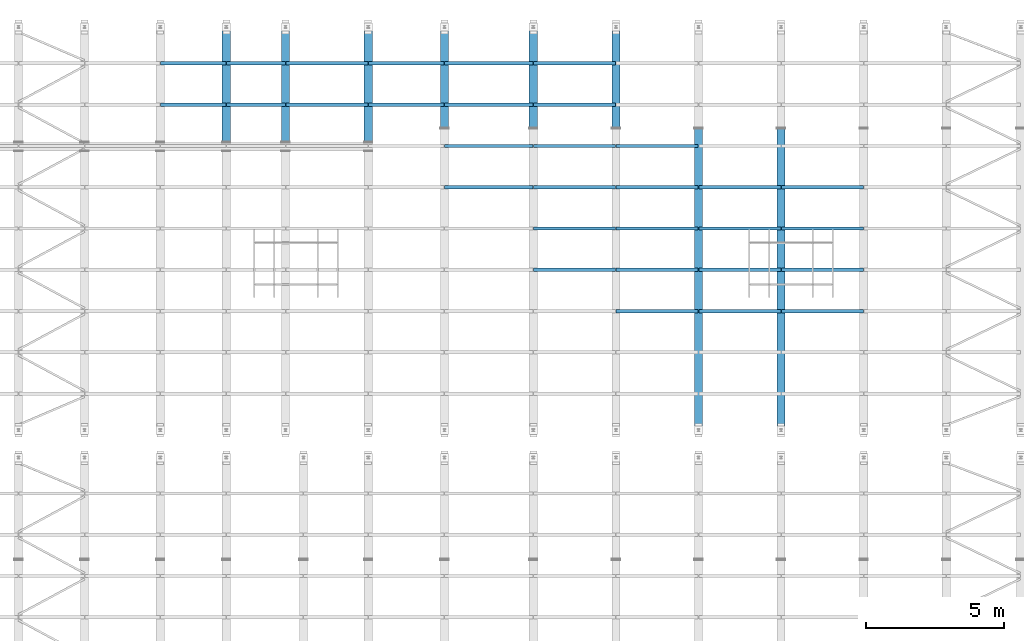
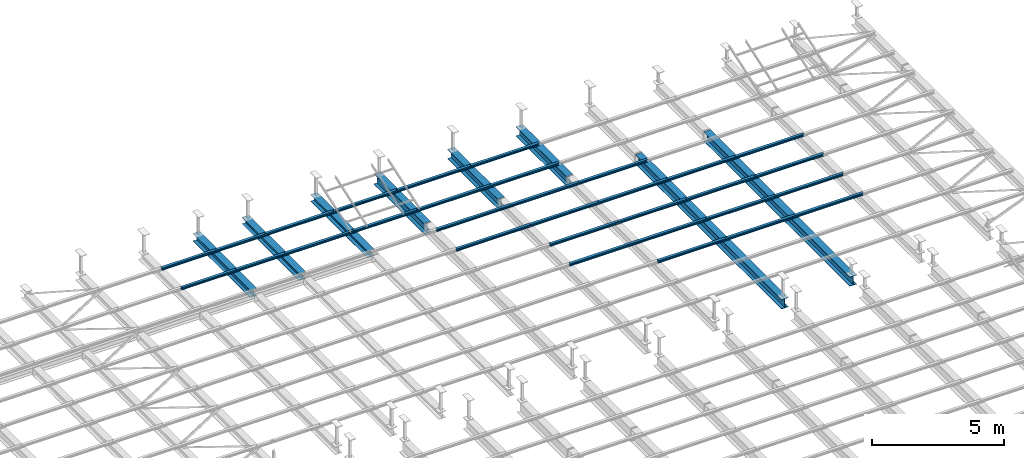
# One storey, part 85 of 139: 39 beams.
"""IFC2X3 building model written with IfcOpenShell, lengths in metres."""

import ifcopenshell
import ifcopenshell.guid

model = None  # the IFC model being written
_history = None  # IfcOwnerHistory: only IFC2X3 demands one
_inside = {}  # id of a spatial element -> (the spatial element, [elements in it])
_under = {}  # id of a project, library or spatial element -> (it, [spatial elements below it])
_declared = {}  # id of a project -> (the project, [libraries it declares])
_typed = {}  # id of a type object -> (the type object, [elements of that type])
_made_of = {}  # id of a material, layer set ... -> (it, [elements and type objects made of it])


def new_model(schema):
    """Start an empty IFC model of exactly this schema.

    Asked for "IFC4X3", IfcOpenShell would pick the latest addendum, in which some entities
    have other attributes; the version numbers below select the first issue.
    IFC2X3 requires an IfcOwnerHistory on every rooted entity: one is made here for all.
    """
    global model, _history
    if schema == "IFC4X3":
        model = ifcopenshell.file(schema_version=(4, 3, 0, 0))
    else:
        model = ifcopenshell.file(schema=schema)
    _inside.clear()
    _under.clear()
    _declared.clear()
    _typed.clear()
    _made_of.clear()
    _history = None
    if model.schema == "IFC2X3":
        org = make("IfcOrganization", Name="unknown")
        user = make(
            "IfcPersonAndOrganization",
            ThePerson=make("IfcPerson", FamilyName="unknown"),
            TheOrganization=org,
        )
        app = make(
            "IfcApplication",
            ApplicationDeveloper=org,
            Version="unknown",
            ApplicationFullName="unknown",
            ApplicationIdentifier="unknown",
        )
        _history = make(
            "IfcOwnerHistory",
            OwningUser=user,
            OwningApplication=app,
            ChangeAction="ADDED",
            CreationDate=0,
        )
    return model


def make(cls, **values):
    """One entity of the class cls with the attributes given. An attribute that is None is left unset."""
    return model.create_entity(
        cls, **{name: value for name, value in values.items() if value is not None}
    )


def entity(cls, *values):
    """Any entity or typed value of the class cls, its attributes in the order of the schema. None: left unset."""
    e = model.create_entity(cls)
    for i, value in enumerate(values):
        if value is not None:
            e[i] = value
    return e


def rooted(cls, **values):
    """An entity with a GlobalId (a new one), such as an element, a storey or a relation."""
    return make(cls, GlobalId=ifcopenshell.guid.new(), OwnerHistory=_history, **values)


def si_unit(unit_type, name, prefix=None):
    """IfcSIUnit, for example si_unit("LENGTHUNIT", "METRE", prefix="MILLI")."""
    return make("IfcSIUnit", UnitType=unit_type, Prefix=prefix, Name=name)


def converted_unit(unit_type, name, factor, base, dimensions=None, offset=None):
    """IfcConversionBasedUnit, such as the inch: factor (a typed value) times the base unit."""
    return make(
        "IfcConversionBasedUnit"
        if offset is None
        else "IfcConversionBasedUnitWithOffset",
        ConversionOffset=offset,
        Dimensions=None
        if dimensions is None
        else entity("IfcDimensionalExponents", *dimensions),
        UnitType=unit_type,
        Name=name,
        ConversionFactor=make(
            "IfcMeasureWithUnit", ValueComponent=factor, UnitComponent=base
        ),
    )


def derived_unit(unit_type, elements):
    """IfcDerivedUnit: a product of units, each with its exponent."""
    return make(
        "IfcDerivedUnit",
        Elements=[
            make("IfcDerivedUnitElement", Unit=unit, Exponent=power)
            for unit, power in elements
        ],
        UnitType=unit_type,
    )


def assignment(units):
    """IfcUnitAssignment: the units of a project."""
    return None if units is None else make("IfcUnitAssignment", Units=units)


def point(xyz):
    """IfcCartesianPoint."""
    return None if xyz is None else make("IfcCartesianPoint", Coordinates=xyz)


def direction(xyz):
    """IfcDirection."""
    return None if xyz is None else make("IfcDirection", DirectionRatios=xyz)


def frame(location, z_axis=None, x_axis=None):
    """IfcAxis2Placement3D, a coordinate frame: its origin and axes. An axis left out is left unset."""
    return make(
        "IfcAxis2Placement3D",
        Location=point(location),
        Axis=direction(z_axis),
        RefDirection=direction(x_axis),
    )


def origin():
    """The frame at (0, 0, 0) with its axes left unset."""
    return frame((0.0, 0.0, 0.0))


def place(relative_to, where):
    """IfcLocalPlacement: puts the frame where relative to a parent placement (None: the world)."""
    return make(
        "IfcLocalPlacement", PlacementRelTo=relative_to, RelativePlacement=where
    )


def context(
    kind, dimensions, precision=None, world=None, true_north=None, identifier=None
):
    """IfcGeometricRepresentationContext, for example the 3D "Model" context."""
    return make(
        "IfcGeometricRepresentationContext",
        ContextIdentifier=identifier,
        ContextType=kind,
        CoordinateSpaceDimension=dimensions,
        Precision=precision,
        WorldCoordinateSystem=world,
        TrueNorth=true_north,
    )


def subcontext(parent, identifier, kind, view, scale=None):
    """IfcGeometricRepresentationSubContext, for example "Body" below "Model"."""
    return make(
        "IfcGeometricRepresentationSubContext",
        ContextIdentifier=identifier,
        ContextType=kind,
        ParentContext=parent,
        TargetScale=scale,
        TargetView=view,
    )


def project(units=None, contexts=None):
    """IfcProject with its units and contexts."""
    return rooted(
        "IfcProject",
        Name="project",
        RepresentationContexts=contexts,
        UnitsInContext=assignment(units),
    )


def spatial(cls, under=None, at=None, **own):
    """A site, building, storey or space (cls), placed at a placement, below another one or the project."""
    s = rooted(cls, ObjectPlacement=at, **own)
    if under is not None:
        _under.setdefault(under.id(), (under, []))[1].append(s)
    return s


def polyline(points):
    """IfcPolyline through the points."""
    return make("IfcPolyline", Points=[point(p) for p in points])


def outline(outer, holes=None, kind="AREA"):
    """IfcArbitraryClosedProfileDef: a profile drawn as a closed curve; with holes, ...WithVoids."""
    if holes is None:
        return make("IfcArbitraryClosedProfileDef", ProfileType=kind, OuterCurve=outer)
    return make(
        "IfcArbitraryProfileDefWithVoids",
        ProfileType=kind,
        OuterCurve=outer,
        InnerCurves=holes,
    )


def extrude(swept, where, along, depth):
    """IfcExtrudedAreaSolid: the profile swept, set in the frame where, extruded along a direction by depth."""
    return make(
        "IfcExtrudedAreaSolid",
        SweptArea=swept,
        Position=where,
        ExtrudedDirection=direction(along),
        Depth=depth,
    )


def shape(context_of_items, identifier, shape_type, items):
    """IfcShapeRepresentation: the items that make up one representation, for example the "Body"."""
    return make(
        "IfcShapeRepresentation",
        ContextOfItems=context_of_items,
        RepresentationIdentifier=identifier,
        RepresentationType=shape_type,
        Items=items,
    )


def material(Name=None, Category=None):
    """IfcMaterial."""
    return make("IfcMaterial", Name=Name, Category=Category)


def made_of(thing, what):
    """Note that an element or type object is made of a material, layer set ...; save() writes the relation."""
    if what is not None:
        _made_of.setdefault(what.id(), (what, []))[1].append(thing)
    return thing


def element(
    cls,
    number,
    at=None,
    inside=None,
    cuts=None,
    type_object=None,
    material=None,
    context=None,
    identifier="Body",
    shape_type=None,
    held_by="IfcProductDefinitionShape",
    body=None,
    shapes=None,
    **own,
):
    """One element of the class cls, such as IfcWall. Its Tag is "e" and its number.

    at: its placement. inside: the storey or other place that contains it. cuts: it is an
    opening in that element (IfcRelVoidsElement). A single representation is given by context,
    identifier, shape_type and body (its items); several are given by shapes. held_by: the class
    of the entity that holds the representations. save() writes the other relations.
    """
    e = rooted(cls, Tag="e%d" % number, ObjectPlacement=at, **own)
    if body is not None:
        shapes = [shape(context, identifier, shape_type, body)]
    if shapes is not None:
        e.Representation = make(held_by, Representations=shapes)
    if inside is not None:
        _inside.setdefault(inside.id(), (inside, []))[1].append(e)
    if cuts is not None:
        rooted(
            "IfcRelVoidsElement", RelatingBuildingElement=cuts, RelatedOpeningElement=e
        )
    if type_object is not None:
        _typed.setdefault(type_object.id(), (type_object, []))[1].append(e)
    return made_of(e, material)


def aggregate(whole, parts):
    """IfcRelAggregates: a whole, such as a stair, and the parts it consists of."""
    return rooted("IfcRelAggregates", RelatingObject=whole, RelatedObjects=parts)


def save(model, path):
    """Write the relations noted so far, then the file.

    IfcRelAggregates (storeys below a building ...), IfcRelContainedInSpatialStructure (elements
    in a storey), IfcRelDefinesByType, IfcRelAssociatesMaterial and IfcRelDeclares: one each for
    every whole, place, type object, material and project.
    """
    for whole, parts in _under.values():
        aggregate(whole, parts)
    for where, things in _inside.values():
        rooted(
            "IfcRelContainedInSpatialStructure",
            RelatedElements=things,
            RelatingStructure=where,
        )
    for kind, things in _typed.values():
        rooted("IfcRelDefinesByType", RelatedObjects=things, RelatingType=kind)
    for what, things in _made_of.values():
        rooted("IfcRelAssociatesMaterial", RelatedObjects=things, RelatingMaterial=what)
    for by, libraries in _declared.values():
        rooted("IfcRelDeclares", RelatingContext=by, RelatedDefinitions=libraries)
    model.write(path)


model = new_model("IFC2X3")

# Units and contexts
model_context = context("Model", 3, precision=1e-05, world=origin())
body_context = subcontext(model_context, "Body", "Model", "MODEL_VIEW")
ifc_project = project(units=[si_unit("LENGTHUNIT", "METRE"), si_unit("AREAUNIT", "SQUARE_METRE"), si_unit("VOLUMEUNIT", "CUBIC_METRE"), si_unit("MASSUNIT", "GRAM", prefix="KILO"), converted_unit("PLANEANGLEUNIT", "DEGREE", entity("IfcPlaneAngleMeasure", 0.0174532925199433), si_unit("PLANEANGLEUNIT", "RADIAN"), dimensions=[0, 0, 0, 0, 0, 0, 0]), derived_unit("THERMALTRANSMITTANCEUNIT", [(si_unit("POWERUNIT", "WATT"), 1), (si_unit("THERMODYNAMICTEMPERATUREUNIT", "KELVIN"), -1), (si_unit("LENGTHUNIT", "METRE"), -2)]), derived_unit("VOLUMETRICFLOWRATEUNIT", [(si_unit("LENGTHUNIT", "METRE"), 3), (converted_unit("TIMEUNIT", "hour", entity("IfcTimeMeasure", 3600.0), si_unit("TIMEUNIT", "SECOND"), dimensions=[0, 0, 1, 0, 0, 0, 0]), -1), (si_unit("LENGTHUNIT", "METRE"), -1)])], contexts=[model_context])

# Site, building, storey
site_placement = place(None, origin())
site = spatial("IfcSite", under=ifc_project, at=site_placement, Name="TWP_Speiseverteilzentrum SBW VZ II", CompositionType="ELEMENT")
building_placement = place(site_placement, origin())
building = spatial("IfcBuilding", under=site, at=building_placement, Name="Speiseverteilzentrum SBW VZ II", CompositionType="ELEMENT")
storey_placement = place(building_placement, frame((0.0, 0.0, 7.1307)))
storey = spatial("IfcBuildingStorey", under=building, at=storey_placement, Name="Wartung_FFB", CompositionType="ELEMENT", Elevation=7.1307)

# Beams
ifc_material_1 = material(Name="S235")
beam_1_placement = place(storey_placement, frame((91.9000000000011, 85.7000000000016, -0.365), z_axis=(0.0, 0.0, 1.0), x_axis=(-1.0, 0.0, 0.0)))
element("IfcBeam", 1, at=beam_1_placement, inside=storey, material=ifc_material_1, Name="Stahlträger", context=body_context, shape_type="SweptSolid", body=[
    extrude(outline(polyline([(-0.15, 0.175), (-0.15, 0.1575), (-0.00500000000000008, 0.1575), (-0.0050000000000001, -0.1575), (-0.15, -0.1575), (-0.15, -0.175), (0.15, -0.175), (0.15, -0.1575), (0.0049999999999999, -0.1575), (0.00499999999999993, 0.1575), (0.15, 0.1575), (0.15, 0.175), (-0.15, 0.175)])), frame((0.0, 0.0, 0.0), z_axis=(0.0, 1.0, 0.0), x_axis=(-1.0, 0.0, 0.0)), (0.0, 0.0, 1.0), 4.32558461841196),
])
ifc_material_2 = material(Name="S235")
beam_2_placement = place(storey_placement, frame((94.0500000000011, 81.3744153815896, -0.345), z_axis=(0.0, 0.0, 1.0), x_axis=(1.0, -2.44929359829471e-16, 0.0)))
element("IfcBeam", 2, at=beam_2_placement, inside=storey, material=ifc_material_2, Name="Stahlträger", context=body_context, shape_type="SweptSolid", body=[
    extrude(outline(polyline([(-0.15, 0.155), (-0.15, 0.1395), (-0.00449999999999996, 0.1395), (-0.00449999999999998, -0.1395), (-0.15, -0.1395), (-0.15, -0.155), (0.15, -0.155), (0.15, -0.1395), (0.00450000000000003, -0.1395), (0.00450000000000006, 0.1395), (0.15, 0.1395), (0.15, 0.155), (-0.15, 0.155)])), frame((0.0, 0.0, 0.0), z_axis=(0.0, 1.0, 0.0), x_axis=(-1.0, 0.0, 0.0)), (0.0, 0.0, 1.0), 4.32558461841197),
])
ifc_material_3 = material(Name="S235")
beam_3_placement = place(storey_placement, frame((97.0500000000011, 81.3744153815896, -0.345), z_axis=(0.0, 0.0, 1.0), x_axis=(1.0, -2.44929359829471e-16, 0.0)))
element("IfcBeam", 3, at=beam_3_placement, inside=storey, material=ifc_material_3, Name="Stahlträger", context=body_context, shape_type="SweptSolid", body=[
    extrude(outline(polyline([(-0.15, 0.155), (-0.15, 0.1395), (-0.00449999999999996, 0.1395), (-0.00449999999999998, -0.1395), (-0.15, -0.1395), (-0.15, -0.155), (0.15, -0.155), (0.15, -0.1395), (0.00450000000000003, -0.1395), (0.00450000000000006, 0.1395), (0.15, 0.1395), (0.15, 0.155), (-0.15, 0.155)])), frame((0.0, 0.0, 0.0), z_axis=(0.0, 1.0, 0.0), x_axis=(-1.0, 0.0, 0.0)), (0.0, 0.0, 1.0), 4.32558461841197),
])
ifc_material_4 = material(Name="S235")
beam_4_placement = place(storey_placement, frame((103.050000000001, 81.8930000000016, -0.41), z_axis=(0.0, 0.0, 1.0), x_axis=(1.0, -2.44929359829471e-16, 0.0)))
element("IfcBeam", 4, at=beam_4_placement, inside=storey, material=ifc_material_4, Name="Stahlträger", context=body_context, shape_type="SweptSolid", body=[
    extrude(outline(polyline([(-0.15, 0.22), (-0.15, 0.199), (-0.00574999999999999, 0.199), (-0.00575000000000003, -0.199), (-0.15, -0.199), (-0.15, -0.22), (0.15, -0.22), (0.15, -0.199), (0.00574999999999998, -0.199), (0.00575000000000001, 0.199), (0.15, 0.199), (0.15, 0.22), (-0.15, 0.22)])), frame((0.0, 0.0, 0.0), z_axis=(0.0, 1.0, 0.0), x_axis=(-1.0, 0.0, 0.0)), (0.0, 0.0, 1.0), 3.80699999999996),
])
ifc_material_5 = material(Name="S235")
beam_5_placement = place(storey_placement, frame((106.050000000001, 81.8930000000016, -0.41), z_axis=(0.0, 0.0, 1.0), x_axis=(1.0, -2.44929359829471e-16, 0.0)))
element("IfcBeam", 5, at=beam_5_placement, inside=storey, material=ifc_material_5, Name="Stahlträger", context=body_context, shape_type="SweptSolid", body=[
    extrude(outline(polyline([(-0.15, 0.22), (-0.15, 0.199), (-0.00574999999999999, 0.199), (-0.00575000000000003, -0.199), (-0.15, -0.199), (-0.15, -0.22), (0.15, -0.22), (0.15, -0.199), (0.00574999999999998, -0.199), (0.00575000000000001, 0.199), (0.15, 0.199), (0.15, 0.22), (-0.15, 0.22)])), frame((0.0, 0.0, 0.0), z_axis=(0.0, 1.0, 0.0), x_axis=(-1.0, 0.0, 0.0)), (0.0, 0.0, 1.0), 3.80699999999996),
])
ifc_material_6 = material(Name="S235")
beam_6_placement = place(storey_placement, frame((99.8200000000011, 85.7000000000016, -0.435), z_axis=(0.0, 0.0, 1.0), x_axis=(-1.0, 0.0, 0.0)))
element("IfcBeam", 6, at=beam_6_placement, inside=storey, material=ifc_material_6, Name="Stahlträger", context=body_context, shape_type="SweptSolid", body=[
    extrude(outline(polyline([(-0.15, 0.245), (-0.15, 0.222), (-0.00599999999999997, 0.222), (-0.006, -0.222), (-0.15, -0.222), (-0.15, -0.245), (0.15, -0.245), (0.15, -0.222), (0.00600000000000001, -0.222), (0.00600000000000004, 0.222), (0.15, 0.222), (0.15, 0.245), (-0.15, 0.245)])), frame((0.0, 0.0, 0.0), z_axis=(0.0, 1.0, 0.0), x_axis=(-1.0, 0.0, 0.0)), (0.0, 0.0, 1.0), 3.80699999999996),
])
ifc_material_7 = material(Name="S235")
beam_7_placement = place(storey_placement, frame((109.050000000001, 70.7522526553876, -0.41), z_axis=(0.0, 0.0, 1.0), x_axis=(1.0, -2.44929359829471e-16, 0.0)))
element("IfcBeam", 7, at=beam_7_placement, inside=storey, material=ifc_material_7, Name="Stahlträger", context=body_context, shape_type="SweptSolid", body=[
    extrude(outline(polyline([(-0.15, 0.22), (-0.15, 0.199), (-0.00574999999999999, 0.199), (-0.00575000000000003, -0.199), (-0.15, -0.199), (-0.15, -0.22), (0.15, -0.22), (0.15, -0.199), (0.00574999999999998, -0.199), (0.00575000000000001, 0.199), (0.15, 0.199), (0.15, 0.22), (-0.15, 0.22)])), frame((0.0, 0.0, 0.0), z_axis=(0.0, 1.0, 0.0), x_axis=(-1.0, 0.0, 0.0)), (0.0, 0.0, 1.0), 11.090747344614),
])
ifc_material_8 = material(Name="S235")
beam_8_placement = place(storey_placement, frame((112.050000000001, 70.7522526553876, -0.41), z_axis=(0.0, 0.0, 1.0), x_axis=(1.0, -2.44929359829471e-16, 0.0)))
element("IfcBeam", 8, at=beam_8_placement, inside=storey, material=ifc_material_8, Name="Stahlträger", context=body_context, shape_type="SweptSolid", body=[
    extrude(outline(polyline([(-0.15, 0.22), (-0.15, 0.199), (-0.00574999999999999, 0.199), (-0.00575000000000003, -0.199), (-0.15, -0.199), (-0.15, -0.22), (0.15, -0.22), (0.15, -0.199), (0.00574999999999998, -0.199), (0.00575000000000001, 0.199), (0.15, 0.199), (0.15, 0.22), (-0.15, 0.22)])), frame((0.0, 0.0, 0.0), z_axis=(0.0, 1.0, 0.0), x_axis=(-1.0, 0.0, 0.0)), (0.0, 0.0, 1.0), 11.090747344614),
])
ifc_material_9 = material(Name="S235")
beam_9_placement = place(storey_placement, frame((94.0600000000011, 84.2261263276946, -0.133), z_axis=(0.0, 0.0, 1.0), x_axis=(0.0, -1.0, 0.0)))
element("IfcBeam", 9, at=beam_9_placement, inside=storey, material=ifc_material_9, Name="Nebenträger", context=body_context, shape_type="SweptSolid", body=[
    extrude(outline(polyline([(-0.06, 0.0570000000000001), (-0.06, 0.0490000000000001), (-0.00249999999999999, 0.0490000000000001), (-0.0025, -0.0489999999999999), (-0.06, -0.0489999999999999), (-0.06, -0.0569999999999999), (0.06, -0.0569999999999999), (0.06, -0.0489999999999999), (0.0025, -0.0489999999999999), (0.00250000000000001, 0.0490000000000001), (0.06, 0.0490000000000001), (0.06, 0.0570000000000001), (-0.06, 0.0570000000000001)])), frame((0.0, 0.0, 0.0), z_axis=(0.0, 1.0, 0.0), x_axis=(-1.0, 0.0, 0.0)), (0.0, 0.0, 1.0), 2.98),
])
ifc_material_10 = material(Name="S235")
beam_10_placement = place(storey_placement, frame((103.060000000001, 84.2261263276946, -0.133), z_axis=(0.0, 0.0, 1.0), x_axis=(0.0, -1.0, 0.0)))
element("IfcBeam", 10, at=beam_10_placement, inside=storey, material=ifc_material_10, Name="Nebenträger", context=body_context, shape_type="SweptSolid", body=[
    extrude(outline(polyline([(-0.06, 0.0570000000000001), (-0.06, 0.0490000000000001), (-0.00249999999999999, 0.0490000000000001), (-0.0025, -0.0489999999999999), (-0.06, -0.0489999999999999), (-0.06, -0.0569999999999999), (0.06, -0.0569999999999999), (0.06, -0.0489999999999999), (0.0025, -0.0489999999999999), (0.00250000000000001, 0.0490000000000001), (0.06, 0.0490000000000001), (0.06, 0.0570000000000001), (-0.06, 0.0570000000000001)])), frame((0.0, 0.0, 0.0), z_axis=(0.0, 1.0, 0.0), x_axis=(-1.0, 0.0, 0.0)), (0.0, 0.0, 1.0), 2.98),
])
ifc_material_11 = material(Name="S235")
beam_11_placement = place(storey_placement, frame((94.0600000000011, 82.7261263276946, -0.133), z_axis=(0.0, 0.0, 1.0), x_axis=(0.0, -1.0, 0.0)))
element("IfcBeam", 11, at=beam_11_placement, inside=storey, material=ifc_material_11, Name="Nebenträger", context=body_context, shape_type="SweptSolid", body=[
    extrude(outline(polyline([(-0.06, 0.0570000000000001), (-0.06, 0.0490000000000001), (-0.00249999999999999, 0.0490000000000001), (-0.0025, -0.0489999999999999), (-0.06, -0.0489999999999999), (-0.06, -0.0569999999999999), (0.06, -0.0569999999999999), (0.06, -0.0489999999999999), (0.0025, -0.0489999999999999), (0.00250000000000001, 0.0490000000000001), (0.06, 0.0490000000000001), (0.06, 0.0570000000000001), (-0.06, 0.0570000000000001)])), frame((0.0, 0.0, 0.0), z_axis=(0.0, 1.0, 0.0), x_axis=(-1.0, 0.0, 0.0)), (0.0, 0.0, 1.0), 2.98),
])
ifc_material_12 = material(Name="S235")
beam_12_placement = place(storey_placement, frame((103.060000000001, 82.7261263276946, -0.133), z_axis=(0.0, 0.0, 1.0), x_axis=(0.0, -1.0, 0.0)))
element("IfcBeam", 12, at=beam_12_placement, inside=storey, material=ifc_material_12, Name="Nebenträger", context=body_context, shape_type="SweptSolid", body=[
    extrude(outline(polyline([(-0.06, 0.0570000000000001), (-0.06, 0.0490000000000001), (-0.00249999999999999, 0.0490000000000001), (-0.0025, -0.0489999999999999), (-0.06, -0.0489999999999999), (-0.06, -0.0569999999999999), (0.06, -0.0569999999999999), (0.06, -0.0489999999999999), (0.0025, -0.0489999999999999), (0.00250000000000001, 0.0490000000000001), (0.06, 0.0490000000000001), (0.06, 0.0570000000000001), (-0.06, 0.0570000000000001)])), frame((0.0, 0.0, 0.0), z_axis=(0.0, 1.0, 0.0), x_axis=(-1.0, 0.0, 0.0)), (0.0, 0.0, 1.0), 2.98),
])
ifc_material_13 = material(Name="S235")
beam_13_placement = place(storey_placement, frame((103.060000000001, 81.2261263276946, -0.133), z_axis=(0.0, 0.0, 1.0), x_axis=(0.0, -1.0, 0.0)))
element("IfcBeam", 13, at=beam_13_placement, inside=storey, material=ifc_material_13, Name="Nebenträger", context=body_context, shape_type="SweptSolid", body=[
    extrude(outline(polyline([(-0.06, 0.0570000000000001), (-0.06, 0.0490000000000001), (-0.00249999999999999, 0.0490000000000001), (-0.0025, -0.0489999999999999), (-0.06, -0.0489999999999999), (-0.06, -0.0569999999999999), (0.06, -0.0569999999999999), (0.06, -0.0489999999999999), (0.0025, -0.0489999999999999), (0.00250000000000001, 0.0490000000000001), (0.06, 0.0490000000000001), (0.06, 0.0570000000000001), (-0.06, 0.0570000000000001)])), frame((0.0, 0.0, 0.0), z_axis=(0.0, 1.0, 0.0), x_axis=(-1.0, 0.0, 0.0)), (0.0, 0.0, 1.0), 2.98),
])
ifc_material_14 = material(Name="S235")
beam_14_placement = place(storey_placement, frame((106.060000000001, 81.2261263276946, -0.133), z_axis=(0.0, 0.0, 1.0), x_axis=(0.0, -1.0, 0.0)))
element("IfcBeam", 14, at=beam_14_placement, inside=storey, material=ifc_material_14, Name="Nebenträger", context=body_context, shape_type="SweptSolid", body=[
    extrude(outline(polyline([(-0.06, 0.0570000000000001), (-0.06, 0.0490000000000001), (-0.00249999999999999, 0.0490000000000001), (-0.0025, -0.0489999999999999), (-0.06, -0.0489999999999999), (-0.06, -0.0569999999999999), (0.06, -0.0569999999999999), (0.06, -0.0489999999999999), (0.0025, -0.0489999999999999), (0.00250000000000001, 0.0490000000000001), (0.06, 0.0490000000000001), (0.06, 0.0570000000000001), (-0.06, 0.0570000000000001)])), frame((0.0, 0.0, 0.0), z_axis=(0.0, 1.0, 0.0), x_axis=(-1.0, 0.0, 0.0)), (0.0, 0.0, 1.0), 2.98),
])
ifc_material_15 = material(Name="S235")
beam_15_placement = place(storey_placement, frame((103.060000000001, 79.7261263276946, -0.133), z_axis=(0.0, 0.0, 1.0), x_axis=(0.0, -1.0, 0.0)))
element("IfcBeam", 15, at=beam_15_placement, inside=storey, material=ifc_material_15, Name="Nebenträger", context=body_context, shape_type="SweptSolid", body=[
    extrude(outline(polyline([(-0.06, 0.0570000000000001), (-0.06, 0.0490000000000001), (-0.00249999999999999, 0.0490000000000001), (-0.0025, -0.0489999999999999), (-0.06, -0.0489999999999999), (-0.06, -0.0569999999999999), (0.06, -0.0569999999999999), (0.06, -0.0489999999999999), (0.0025, -0.0489999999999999), (0.00250000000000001, 0.0490000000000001), (0.06, 0.0490000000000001), (0.06, 0.0570000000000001), (-0.06, 0.0570000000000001)])), frame((0.0, 0.0, 0.0), z_axis=(0.0, 1.0, 0.0), x_axis=(-1.0, 0.0, 0.0)), (0.0, 0.0, 1.0), 2.98),
])
ifc_material_16 = material(Name="S235")
beam_16_placement = place(storey_placement, frame((106.060000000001, 79.7261263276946, -0.133), z_axis=(0.0, 0.0, 1.0), x_axis=(0.0, -1.0, 0.0)))
element("IfcBeam", 16, at=beam_16_placement, inside=storey, material=ifc_material_16, Name="Nebenträger", context=body_context, shape_type="SweptSolid", body=[
    extrude(outline(polyline([(-0.06, 0.0570000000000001), (-0.06, 0.0490000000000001), (-0.00249999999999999, 0.0490000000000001), (-0.0025, -0.0489999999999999), (-0.06, -0.0489999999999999), (-0.06, -0.0569999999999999), (0.06, -0.0569999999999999), (0.06, -0.0489999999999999), (0.0025, -0.0489999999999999), (0.00250000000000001, 0.0490000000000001), (0.06, 0.0490000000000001), (0.06, 0.0570000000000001), (-0.06, 0.0570000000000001)])), frame((0.0, 0.0, 0.0), z_axis=(0.0, 1.0, 0.0), x_axis=(-1.0, 0.0, 0.0)), (0.0, 0.0, 1.0), 2.98),
])
ifc_material_17 = material(Name="S235")
beam_17_placement = place(storey_placement, frame((109.060000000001, 79.7261263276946, -0.133), z_axis=(0.0, 0.0, 1.0), x_axis=(0.0, -1.0, 0.0)))
element("IfcBeam", 17, at=beam_17_placement, inside=storey, material=ifc_material_17, Name="Nebenträger", context=body_context, shape_type="SweptSolid", body=[
    extrude(outline(polyline([(-0.06, 0.0570000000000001), (-0.06, 0.0490000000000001), (-0.00249999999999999, 0.0490000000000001), (-0.0025, -0.0489999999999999), (-0.06, -0.0489999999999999), (-0.06, -0.0569999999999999), (0.06, -0.0569999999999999), (0.06, -0.0489999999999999), (0.0025, -0.0489999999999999), (0.00250000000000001, 0.0490000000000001), (0.06, 0.0490000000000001), (0.06, 0.0570000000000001), (-0.06, 0.0570000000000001)])), frame((0.0, 0.0, 0.0), z_axis=(0.0, 1.0, 0.0), x_axis=(-1.0, 0.0, 0.0)), (0.0, 0.0, 1.0), 2.98),
])
ifc_material_18 = material(Name="S235")
beam_18_placement = place(storey_placement, frame((112.060000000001, 79.7261263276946, -0.133), z_axis=(0.0, 0.0, 1.0), x_axis=(0.0, -1.0, 0.0)))
element("IfcBeam", 18, at=beam_18_placement, inside=storey, material=ifc_material_18, Name="Nebenträger", context=body_context, shape_type="SweptSolid", body=[
    extrude(outline(polyline([(-0.06, 0.0570000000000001), (-0.06, 0.0490000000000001), (-0.00249999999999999, 0.0490000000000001), (-0.0025, -0.0489999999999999), (-0.06, -0.0489999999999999), (-0.06, -0.0569999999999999), (0.06, -0.0569999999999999), (0.06, -0.0489999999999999), (0.0025, -0.0489999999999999), (0.00250000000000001, 0.0490000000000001), (0.06, 0.0490000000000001), (0.06, 0.0570000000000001), (-0.06, 0.0570000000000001)])), frame((0.0, 0.0, 0.0), z_axis=(0.0, 1.0, 0.0), x_axis=(-1.0, 0.0, 0.0)), (0.0, 0.0, 1.0), 2.98),
])
ifc_material_19 = material(Name="S235")
beam_19_placement = place(storey_placement, frame((103.060000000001, 78.2261263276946, -0.133), z_axis=(0.0, 0.0, 1.0), x_axis=(0.0, -1.0, 0.0)))
element("IfcBeam", 19, at=beam_19_placement, inside=storey, material=ifc_material_19, Name="Nebenträger", context=body_context, shape_type="SweptSolid", body=[
    extrude(outline(polyline([(-0.06, 0.0570000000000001), (-0.06, 0.0490000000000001), (-0.00249999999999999, 0.0490000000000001), (-0.0025, -0.0489999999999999), (-0.06, -0.0489999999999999), (-0.06, -0.0569999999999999), (0.06, -0.0569999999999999), (0.06, -0.0489999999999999), (0.0025, -0.0489999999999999), (0.00250000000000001, 0.0490000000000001), (0.06, 0.0490000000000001), (0.06, 0.0570000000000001), (-0.06, 0.0570000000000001)])), frame((0.0, 0.0, 0.0), z_axis=(0.0, 1.0, 0.0), x_axis=(-1.0, 0.0, 0.0)), (0.0, 0.0, 1.0), 2.98),
])
ifc_material_20 = material(Name="S235")
beam_20_placement = place(storey_placement, frame((106.060000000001, 78.2261263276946, -0.133), z_axis=(0.0, 0.0, 1.0), x_axis=(0.0, -1.0, 0.0)))
element("IfcBeam", 20, at=beam_20_placement, inside=storey, material=ifc_material_20, Name="Nebenträger", context=body_context, shape_type="SweptSolid", body=[
    extrude(outline(polyline([(-0.06, 0.0570000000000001), (-0.06, 0.0490000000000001), (-0.00249999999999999, 0.0490000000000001), (-0.0025, -0.0489999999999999), (-0.06, -0.0489999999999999), (-0.06, -0.0569999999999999), (0.06, -0.0569999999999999), (0.06, -0.0489999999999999), (0.0025, -0.0489999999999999), (0.00250000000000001, 0.0490000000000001), (0.06, 0.0490000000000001), (0.06, 0.0570000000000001), (-0.06, 0.0570000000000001)])), frame((0.0, 0.0, 0.0), z_axis=(0.0, 1.0, 0.0), x_axis=(-1.0, 0.0, 0.0)), (0.0, 0.0, 1.0), 2.98),
])
ifc_material_21 = material(Name="S235")
beam_21_placement = place(storey_placement, frame((109.060000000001, 78.2261263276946, -0.133), z_axis=(0.0, 0.0, 1.0), x_axis=(0.0, -1.0, 0.0)))
element("IfcBeam", 21, at=beam_21_placement, inside=storey, material=ifc_material_21, Name="Nebenträger", context=body_context, shape_type="SweptSolid", body=[
    extrude(outline(polyline([(-0.06, 0.0570000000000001), (-0.06, 0.0490000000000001), (-0.00249999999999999, 0.0490000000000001), (-0.0025, -0.0489999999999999), (-0.06, -0.0489999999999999), (-0.06, -0.0569999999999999), (0.06, -0.0569999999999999), (0.06, -0.0489999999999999), (0.0025, -0.0489999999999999), (0.00250000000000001, 0.0490000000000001), (0.06, 0.0490000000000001), (0.06, 0.0570000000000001), (-0.06, 0.0570000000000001)])), frame((0.0, 0.0, 0.0), z_axis=(0.0, 1.0, 0.0), x_axis=(-1.0, 0.0, 0.0)), (0.0, 0.0, 1.0), 2.98),
])
ifc_material_22 = material(Name="S235")
beam_22_placement = place(storey_placement, frame((112.060000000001, 78.2261263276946, -0.133), z_axis=(0.0, 0.0, 1.0), x_axis=(0.0, -1.0, 0.0)))
element("IfcBeam", 22, at=beam_22_placement, inside=storey, material=ifc_material_22, Name="Nebenträger", context=body_context, shape_type="SweptSolid", body=[
    extrude(outline(polyline([(-0.06, 0.0570000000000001), (-0.06, 0.0490000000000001), (-0.00249999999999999, 0.0490000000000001), (-0.0025, -0.0489999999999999), (-0.06, -0.0489999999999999), (-0.06, -0.0569999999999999), (0.06, -0.0569999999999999), (0.06, -0.0489999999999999), (0.0025, -0.0489999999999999), (0.00250000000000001, 0.0490000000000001), (0.06, 0.0490000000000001), (0.06, 0.0570000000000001), (-0.06, 0.0570000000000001)])), frame((0.0, 0.0, 0.0), z_axis=(0.0, 1.0, 0.0), x_axis=(-1.0, 0.0, 0.0)), (0.0, 0.0, 1.0), 2.98),
])
ifc_material_23 = material(Name="S235")
beam_23_placement = place(storey_placement, frame((103.060000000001, 76.7261263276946, -0.133), z_axis=(0.0, 0.0, 1.0), x_axis=(0.0, -1.0, 0.0)))
element("IfcBeam", 23, at=beam_23_placement, inside=storey, material=ifc_material_23, Name="Nebenträger", context=body_context, shape_type="SweptSolid", body=[
    extrude(outline(polyline([(-0.06, 0.0570000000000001), (-0.06, 0.0490000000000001), (-0.00249999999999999, 0.0490000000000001), (-0.0025, -0.0489999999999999), (-0.06, -0.0489999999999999), (-0.06, -0.0569999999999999), (0.06, -0.0569999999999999), (0.06, -0.0489999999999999), (0.0025, -0.0489999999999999), (0.00250000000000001, 0.0490000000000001), (0.06, 0.0490000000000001), (0.06, 0.0570000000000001), (-0.06, 0.0570000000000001)])), frame((0.0, 0.0, 0.0), z_axis=(0.0, 1.0, 0.0), x_axis=(-1.0, 0.0, 0.0)), (0.0, 0.0, 1.0), 2.98),
])
ifc_material_24 = material(Name="S235")
beam_24_placement = place(storey_placement, frame((106.060000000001, 76.7261263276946, -0.133), z_axis=(0.0, 0.0, 1.0), x_axis=(0.0, -1.0, 0.0)))
element("IfcBeam", 24, at=beam_24_placement, inside=storey, material=ifc_material_24, Name="Nebenträger", context=body_context, shape_type="SweptSolid", body=[
    extrude(outline(polyline([(-0.06, 0.0570000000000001), (-0.06, 0.0490000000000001), (-0.00249999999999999, 0.0490000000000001), (-0.0025, -0.0489999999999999), (-0.06, -0.0489999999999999), (-0.06, -0.0569999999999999), (0.06, -0.0569999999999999), (0.06, -0.0489999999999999), (0.0025, -0.0489999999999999), (0.00250000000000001, 0.0490000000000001), (0.06, 0.0490000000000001), (0.06, 0.0570000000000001), (-0.06, 0.0570000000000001)])), frame((0.0, 0.0, 0.0), z_axis=(0.0, 1.0, 0.0), x_axis=(-1.0, 0.0, 0.0)), (0.0, 0.0, 1.0), 2.98),
])
ifc_material_25 = material(Name="S235")
beam_25_placement = place(storey_placement, frame((109.060000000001, 76.7261263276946, -0.133), z_axis=(0.0, 0.0, 1.0), x_axis=(0.0, -1.0, 0.0)))
element("IfcBeam", 25, at=beam_25_placement, inside=storey, material=ifc_material_25, Name="Nebenträger", context=body_context, shape_type="SweptSolid", body=[
    extrude(outline(polyline([(-0.06, 0.0570000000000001), (-0.06, 0.0490000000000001), (-0.00249999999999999, 0.0490000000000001), (-0.0025, -0.0489999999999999), (-0.06, -0.0489999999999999), (-0.06, -0.0569999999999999), (0.06, -0.0569999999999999), (0.06, -0.0489999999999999), (0.0025, -0.0489999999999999), (0.00250000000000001, 0.0490000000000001), (0.06, 0.0490000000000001), (0.06, 0.0570000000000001), (-0.06, 0.0570000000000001)])), frame((0.0, 0.0, 0.0), z_axis=(0.0, 1.0, 0.0), x_axis=(-1.0, 0.0, 0.0)), (0.0, 0.0, 1.0), 2.98),
])
ifc_material_26 = material(Name="S235")
beam_26_placement = place(storey_placement, frame((112.060000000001, 76.7261263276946, -0.133), z_axis=(0.0, 0.0, 1.0), x_axis=(0.0, -1.0, 0.0)))
element("IfcBeam", 26, at=beam_26_placement, inside=storey, material=ifc_material_26, Name="Nebenträger", context=body_context, shape_type="SweptSolid", body=[
    extrude(outline(polyline([(-0.06, 0.0570000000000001), (-0.06, 0.0490000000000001), (-0.00249999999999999, 0.0490000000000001), (-0.0025, -0.0489999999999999), (-0.06, -0.0489999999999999), (-0.06, -0.0569999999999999), (0.06, -0.0569999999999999), (0.06, -0.0489999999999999), (0.0025, -0.0489999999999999), (0.00250000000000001, 0.0490000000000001), (0.06, 0.0490000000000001), (0.06, 0.0570000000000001), (-0.06, 0.0570000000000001)])), frame((0.0, 0.0, 0.0), z_axis=(0.0, 1.0, 0.0), x_axis=(-1.0, 0.0, 0.0)), (0.0, 0.0, 1.0), 2.98),
])
ifc_material_27 = material(Name="S235")
beam_27_placement = place(storey_placement, frame((106.060000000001, 75.2261263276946, -0.133), z_axis=(0.0, 0.0, 1.0), x_axis=(0.0, -1.0, 0.0)))
element("IfcBeam", 27, at=beam_27_placement, inside=storey, material=ifc_material_27, Name="Nebenträger", context=body_context, shape_type="SweptSolid", body=[
    extrude(outline(polyline([(-0.06, 0.0570000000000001), (-0.06, 0.0490000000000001), (-0.00249999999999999, 0.0490000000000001), (-0.0025, -0.0489999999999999), (-0.06, -0.0489999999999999), (-0.06, -0.0569999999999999), (0.06, -0.0569999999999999), (0.06, -0.0489999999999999), (0.0025, -0.0489999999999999), (0.00250000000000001, 0.0490000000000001), (0.06, 0.0490000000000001), (0.06, 0.0570000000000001), (-0.06, 0.0570000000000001)])), frame((0.0, 0.0, 0.0), z_axis=(0.0, 1.0, 0.0), x_axis=(-1.0, 0.0, 0.0)), (0.0, 0.0, 1.0), 2.98),
])
ifc_material_28 = material(Name="S235")
beam_28_placement = place(storey_placement, frame((109.060000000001, 75.2261263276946, -0.133), z_axis=(0.0, 0.0, 1.0), x_axis=(0.0, -1.0, 0.0)))
element("IfcBeam", 28, at=beam_28_placement, inside=storey, material=ifc_material_28, Name="Nebenträger", context=body_context, shape_type="SweptSolid", body=[
    extrude(outline(polyline([(-0.06, 0.0570000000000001), (-0.06, 0.0490000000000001), (-0.00249999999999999, 0.0490000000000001), (-0.0025, -0.0489999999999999), (-0.06, -0.0489999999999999), (-0.06, -0.0569999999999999), (0.06, -0.0569999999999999), (0.06, -0.0489999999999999), (0.0025, -0.0489999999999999), (0.00250000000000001, 0.0490000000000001), (0.06, 0.0490000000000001), (0.06, 0.0570000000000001), (-0.06, 0.0570000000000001)])), frame((0.0, 0.0, 0.0), z_axis=(0.0, 1.0, 0.0), x_axis=(-1.0, 0.0, 0.0)), (0.0, 0.0, 1.0), 2.98),
])
ifc_material_29 = material(Name="S235")
beam_29_placement = place(storey_placement, frame((112.060000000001, 75.2261263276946, -0.133), z_axis=(0.0, 0.0, 1.0), x_axis=(0.0, -1.0, 0.0)))
element("IfcBeam", 29, at=beam_29_placement, inside=storey, material=ifc_material_29, Name="Nebenträger", context=body_context, shape_type="SweptSolid", body=[
    extrude(outline(polyline([(-0.06, 0.0570000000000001), (-0.06, 0.0490000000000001), (-0.00249999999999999, 0.0490000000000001), (-0.0025, -0.0489999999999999), (-0.06, -0.0489999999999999), (-0.06, -0.0569999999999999), (0.06, -0.0569999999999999), (0.06, -0.0489999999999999), (0.0025, -0.0489999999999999), (0.00250000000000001, 0.0490000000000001), (0.06, 0.0490000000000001), (0.06, 0.0570000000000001), (-0.06, 0.0570000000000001)])), frame((0.0, 0.0, 0.0), z_axis=(0.0, 1.0, 0.0), x_axis=(-1.0, 0.0, 0.0)), (0.0, 0.0, 1.0), 2.98),
])
ifc_material_30 = material(Name="S235")
beam_30_placement = place(storey_placement, frame((91.9100000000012, 84.2261263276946, -0.133), z_axis=(0.0, 0.0, 1.0), x_axis=(0.0, -1.0, 0.0)))
element("IfcBeam", 30, at=beam_30_placement, inside=storey, material=ifc_material_30, Name="Nebenträger", context=body_context, shape_type="SweptSolid", body=[
    extrude(outline(polyline([(-0.06, 0.0570000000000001), (-0.06, 0.0490000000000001), (-0.00249999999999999, 0.0490000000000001), (-0.0025, -0.0489999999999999), (-0.06, -0.0489999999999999), (-0.06, -0.0569999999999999), (0.06, -0.0569999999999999), (0.06, -0.0489999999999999), (0.0025, -0.0489999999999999), (0.00250000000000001, 0.0490000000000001), (0.06, 0.0490000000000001), (0.06, 0.0570000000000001), (-0.06, 0.0570000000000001)])), frame((0.0, 0.0, 0.0), z_axis=(0.0, 1.0, 0.0), x_axis=(-1.0, 0.0, 0.0)), (0.0, 0.0, 1.0), 2.12999999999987),
])
ifc_material_31 = material(Name="S235")
beam_31_placement = place(storey_placement, frame((91.9100000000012, 82.7261263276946, -0.133), z_axis=(0.0, 0.0, 1.0), x_axis=(0.0, -1.0, 0.0)))
element("IfcBeam", 31, at=beam_31_placement, inside=storey, material=ifc_material_31, Name="Nebenträger", context=body_context, shape_type="SweptSolid", body=[
    extrude(outline(polyline([(-0.06, 0.0570000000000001), (-0.06, 0.0490000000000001), (-0.00249999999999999, 0.0490000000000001), (-0.0025, -0.0489999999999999), (-0.06, -0.0489999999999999), (-0.06, -0.0569999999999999), (0.06, -0.0569999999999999), (0.06, -0.0489999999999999), (0.0025, -0.0489999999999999), (0.00250000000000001, 0.0490000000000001), (0.06, 0.0490000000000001), (0.06, 0.0570000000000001), (-0.06, 0.0570000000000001)])), frame((0.0, 0.0, 0.0), z_axis=(0.0, 1.0, 0.0), x_axis=(-1.0, 0.0, 0.0)), (0.0, 0.0, 1.0), 2.12999999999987),
])
ifc_material_32 = material(Name="S235")
beam_32_placement = place(storey_placement, frame((89.5100000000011, 84.2261263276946, -0.133), z_axis=(0.0, 0.0, 1.0), x_axis=(0.0, -1.0, 0.0)))
element("IfcBeam", 32, at=beam_32_placement, inside=storey, material=ifc_material_32, Name="Nebenträger", context=body_context, shape_type="SweptSolid", body=[
    extrude(outline(polyline([(-0.06, 0.0570000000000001), (-0.06, 0.0490000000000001), (-0.00249999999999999, 0.0490000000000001), (-0.0025, -0.0489999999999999), (-0.06, -0.0489999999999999), (-0.06, -0.0569999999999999), (0.06, -0.0569999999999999), (0.06, -0.0489999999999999), (0.0025, -0.0489999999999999), (0.00250000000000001, 0.0490000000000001), (0.06, 0.0490000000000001), (0.06, 0.0570000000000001), (-0.06, 0.0570000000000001)])), frame((0.0, 0.0, 0.0), z_axis=(0.0, 1.0, 0.0), x_axis=(-1.0, 0.0, 0.0)), (0.0, 0.0, 1.0), 2.38000000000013),
])
ifc_material_33 = material(Name="S235")
beam_33_placement = place(storey_placement, frame((89.5100000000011, 82.7261263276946, -0.133), z_axis=(0.0, 0.0, 1.0), x_axis=(0.0, -1.0, 0.0)))
element("IfcBeam", 33, at=beam_33_placement, inside=storey, material=ifc_material_33, Name="Nebenträger", context=body_context, shape_type="SweptSolid", body=[
    extrude(outline(polyline([(-0.06, 0.0570000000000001), (-0.06, 0.0490000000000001), (-0.00249999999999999, 0.0490000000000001), (-0.0025, -0.0489999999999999), (-0.06, -0.0489999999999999), (-0.06, -0.0569999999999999), (0.06, -0.0569999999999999), (0.06, -0.0489999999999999), (0.0025, -0.0489999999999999), (0.00250000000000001, 0.0490000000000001), (0.06, 0.0490000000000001), (0.06, 0.0570000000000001), (-0.06, 0.0570000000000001)])), frame((0.0, 0.0, 0.0), z_axis=(0.0, 1.0, 0.0), x_axis=(-1.0, 0.0, 0.0)), (0.0, 0.0, 1.0), 2.38000000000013),
])
ifc_material_34 = material(Name="S235")
beam_34_placement = place(storey_placement, frame((97.0600000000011, 84.2261263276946, -0.133), z_axis=(0.0, 0.0, 1.0), x_axis=(0.0, -1.0, 0.0)))
element("IfcBeam", 34, at=beam_34_placement, inside=storey, material=ifc_material_34, Name="Nebenträger", context=body_context, shape_type="SweptSolid", body=[
    extrude(outline(polyline([(-0.06, 0.0570000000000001), (-0.06, 0.0490000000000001), (-0.00249999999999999, 0.0490000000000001), (-0.0025, -0.0489999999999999), (-0.06, -0.0489999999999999), (-0.06, -0.0569999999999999), (0.06, -0.0569999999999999), (0.06, -0.0489999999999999), (0.0025, -0.0489999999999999), (0.00250000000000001, 0.0490000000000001), (0.06, 0.0490000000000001), (0.06, 0.0570000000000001), (-0.06, 0.0570000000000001)])), frame((0.0, 0.0, 0.0), z_axis=(0.0, 1.0, 0.0), x_axis=(-1.0, 0.0, 0.0)), (0.0, 0.0, 1.0), 2.75),
])
ifc_material_35 = material(Name="S235")
beam_35_placement = place(storey_placement, frame((99.8300000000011, 84.2261263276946, -0.133), z_axis=(0.0, 0.0, 1.0), x_axis=(0.0, -1.0, 0.0)))
element("IfcBeam", 35, at=beam_35_placement, inside=storey, material=ifc_material_35, Name="Nebenträger", context=body_context, shape_type="SweptSolid", body=[
    extrude(outline(polyline([(-0.06, 0.0570000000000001), (-0.06, 0.0490000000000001), (-0.00249999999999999, 0.0490000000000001), (-0.0025, -0.0489999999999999), (-0.06, -0.0489999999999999), (-0.06, -0.0569999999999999), (0.06, -0.0569999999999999), (0.06, -0.0489999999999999), (0.0025, -0.0489999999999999), (0.00250000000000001, 0.0490000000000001), (0.06, 0.0490000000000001), (0.06, 0.0570000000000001), (-0.06, 0.0570000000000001)])), frame((0.0, 0.0, 0.0), z_axis=(0.0, 1.0, 0.0), x_axis=(-1.0, 0.0, 0.0)), (0.0, 0.0, 1.0), 3.21),
])
ifc_material_36 = material(Name="S235")
beam_36_placement = place(storey_placement, frame((97.0600000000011, 82.7261263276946, -0.133), z_axis=(0.0, 0.0, 1.0), x_axis=(0.0, -1.0, 0.0)))
element("IfcBeam", 36, at=beam_36_placement, inside=storey, material=ifc_material_36, Name="Nebenträger", context=body_context, shape_type="SweptSolid", body=[
    extrude(outline(polyline([(-0.06, 0.0570000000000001), (-0.06, 0.0490000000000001), (-0.00249999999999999, 0.0490000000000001), (-0.0025, -0.0489999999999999), (-0.06, -0.0489999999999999), (-0.06, -0.0569999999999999), (0.06, -0.0569999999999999), (0.06, -0.0489999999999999), (0.0025, -0.0489999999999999), (0.00250000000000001, 0.0490000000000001), (0.06, 0.0490000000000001), (0.06, 0.0570000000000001), (-0.06, 0.0570000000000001)])), frame((0.0, 0.0, 0.0), z_axis=(0.0, 1.0, 0.0), x_axis=(-1.0, 0.0, 0.0)), (0.0, 0.0, 1.0), 2.75),
])
ifc_material_37 = material(Name="S235")
beam_37_placement = place(storey_placement, frame((99.8300000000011, 82.7261263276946, -0.133), z_axis=(0.0, 0.0, 1.0), x_axis=(0.0, -1.0, 0.0)))
element("IfcBeam", 37, at=beam_37_placement, inside=storey, material=ifc_material_37, Name="Nebenträger", context=body_context, shape_type="SweptSolid", body=[
    extrude(outline(polyline([(-0.06, 0.0570000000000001), (-0.06, 0.0490000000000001), (-0.00249999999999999, 0.0490000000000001), (-0.0025, -0.0489999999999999), (-0.06, -0.0489999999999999), (-0.06, -0.0569999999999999), (0.06, -0.0569999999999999), (0.06, -0.0489999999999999), (0.0025, -0.0489999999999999), (0.00250000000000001, 0.0490000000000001), (0.06, 0.0490000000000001), (0.06, 0.0570000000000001), (-0.06, 0.0570000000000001)])), frame((0.0, 0.0, 0.0), z_axis=(0.0, 1.0, 0.0), x_axis=(-1.0, 0.0, 0.0)), (0.0, 0.0, 1.0), 3.21),
])
ifc_material_38 = material(Name="S235")
beam_38_placement = place(storey_placement, frame((99.8300000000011, 81.2261263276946, -0.133), z_axis=(0.0, 0.0, 1.0), x_axis=(0.0, -1.0, 0.0)))
element("IfcBeam", 38, at=beam_38_placement, inside=storey, material=ifc_material_38, Name="Nebenträger", context=body_context, shape_type="SweptSolid", body=[
    extrude(outline(polyline([(-0.06, 0.0570000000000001), (-0.06, 0.0490000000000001), (-0.00249999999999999, 0.0490000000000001), (-0.0025, -0.0489999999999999), (-0.06, -0.0489999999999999), (-0.06, -0.0569999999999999), (0.06, -0.0569999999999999), (0.06, -0.0489999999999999), (0.0025, -0.0489999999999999), (0.00250000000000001, 0.0490000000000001), (0.06, 0.0490000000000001), (0.06, 0.0570000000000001), (-0.06, 0.0570000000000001)])), frame((0.0, 0.0, 0.0), z_axis=(0.0, 1.0, 0.0), x_axis=(-1.0, 0.0, 0.0)), (0.0, 0.0, 1.0), 3.21),
])
ifc_material_39 = material(Name="S235")
beam_39_placement = place(storey_placement, frame((99.8300000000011, 79.7261263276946, -0.133), z_axis=(0.0, 0.0, 1.0), x_axis=(0.0, -1.0, 0.0)))
element("IfcBeam", 39, at=beam_39_placement, inside=storey, material=ifc_material_39, Name="Nebenträger", context=body_context, shape_type="SweptSolid", body=[
    extrude(outline(polyline([(-0.06, 0.0570000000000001), (-0.06, 0.0490000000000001), (-0.00249999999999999, 0.0490000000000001), (-0.0025, -0.0489999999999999), (-0.06, -0.0489999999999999), (-0.06, -0.0569999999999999), (0.06, -0.0569999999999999), (0.06, -0.0489999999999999), (0.0025, -0.0489999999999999), (0.00250000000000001, 0.0490000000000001), (0.06, 0.0490000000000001), (0.06, 0.0570000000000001), (-0.06, 0.0570000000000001)])), frame((0.0, 0.0, 0.0), z_axis=(0.0, 1.0, 0.0), x_axis=(-1.0, 0.0, 0.0)), (0.0, 0.0, 1.0), 3.21),
])

save(model, "model.ifc")
